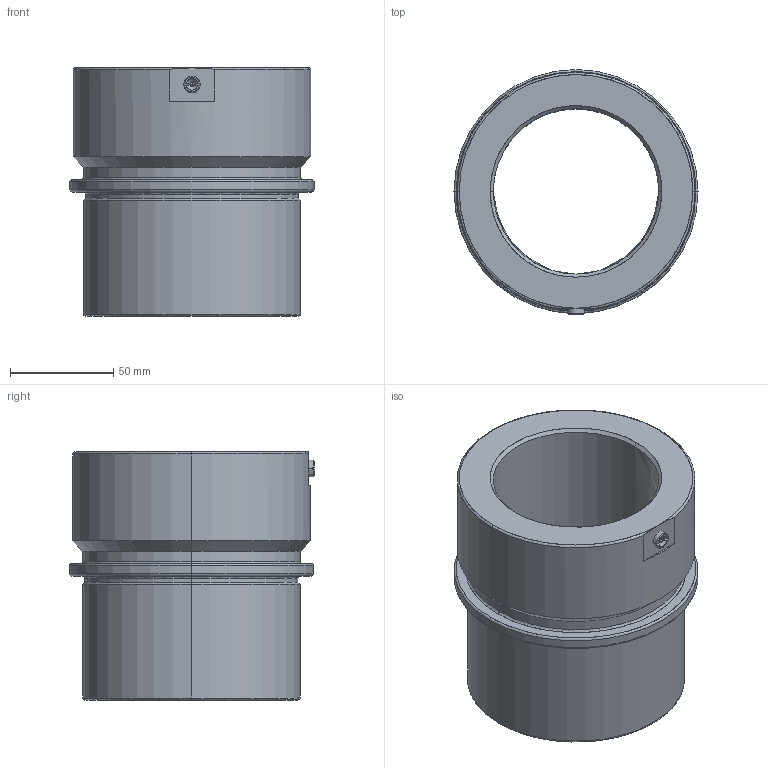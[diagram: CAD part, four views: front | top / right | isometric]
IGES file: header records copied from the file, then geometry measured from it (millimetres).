
Start section: START RECORD GO HERE.
Global section: file name: 744-80.igs; native system: DASSAULT SYSTEMES CATIA V5 R20 - www.3ds.com; preprocessor: CATIA Version 5 Release 20 ; author: Utente; organization: NB04-ASUS; date: 20201223.220519; units: millimetre
Bounding box: 118 x 118.5 x 120 mm (x, y, z)
Surface area: 85427.8 mm2 (no closed solid volume)
Topology: 0 solids, 0 shells, 67 faces, 306 edges, 302 vertices
Faces by surface type: revolution 51, plane 16
